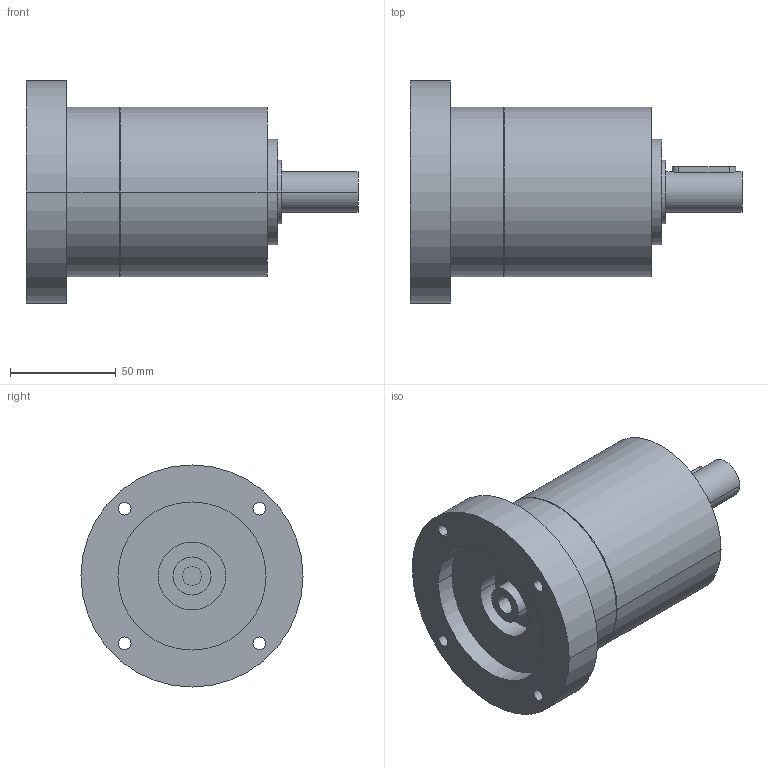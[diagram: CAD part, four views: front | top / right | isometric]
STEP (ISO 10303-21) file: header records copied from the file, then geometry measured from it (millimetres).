
FILE_DESCRIPTION(('CoCreate Modeling STEP Export'),'2;1');
FILE_NAME('GPR100_ig-3-4-5-6_19_B14_9_P14.stp','2014-08-26T10:53:36',(''),(''),'CoCreate Modeling STEP processor for AP214 (Solid Model)','CoCreate Modeling 16.00C 25-Feb-2009 (C) Parametric Technology GmbH','');
FILE_SCHEMA(('AUTOMOTIVE_DESIGN { 1 0 10303 214 1 1 1 1 }'));
Length unit declared in the file: millimetre
Products named in the file (2): GPR100_ig-3-4-5-6_19_B14_9_P14
Assembly tree (1 placements, depth 2):
  GPR100_ig-3-4-5-6_19_B14_9_P14
    GPR100_ig-3-4-5-6_19_B14_9_P14
Bounding box: 157 x 105 x 105 mm (x, y, z)
Volume: 616651.3 mm3; surface area: 58299 mm2
Topology: 1 solids, 1 shells, 76 faces, 203 edges, 145 vertices
Faces by surface type: cylinder 48, plane 22, cone 6
Entity records: 2027 total; most frequent: ORIENTED_EDGE 402, CARTESIAN_POINT 370, DIRECTION 262, EDGE_CURVE 201, VERTEX_POINT 145, EDGE_LOOP 102, AXIS2_PLACEMENT_3D 101, FACE_OUTER_BOUND 76
